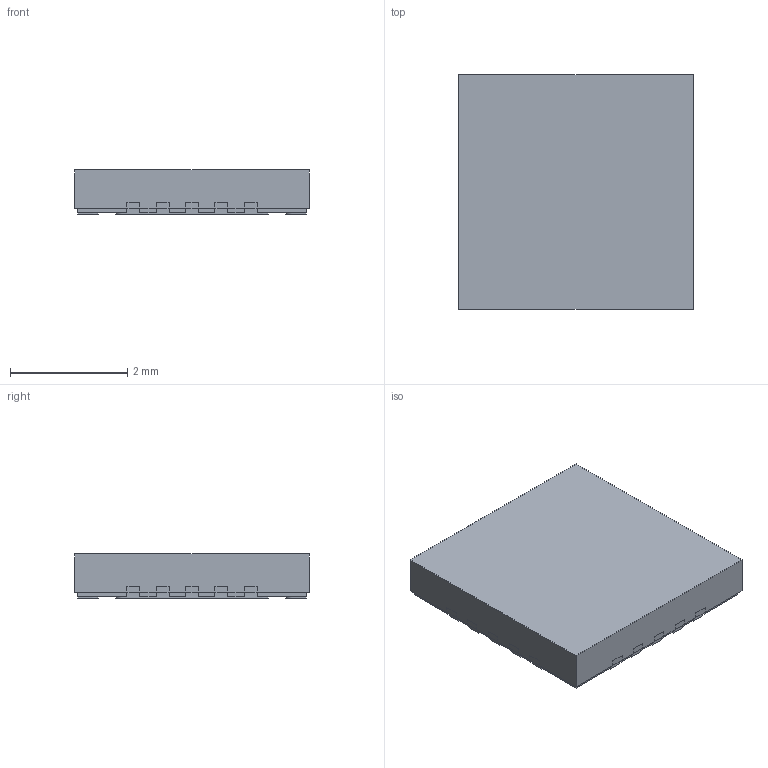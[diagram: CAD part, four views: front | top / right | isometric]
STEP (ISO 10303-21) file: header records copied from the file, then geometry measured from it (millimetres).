
FILE_DESCRIPTION (( 'STEP AP214' ), '1' );
FILE_NAME ('ES20-Wettable.STEP', '2018-09-27T18:52:39', ( '' ), ( '' ), 'SwSTEP 2.0', 'SolidWorks 2017', '' );
FILE_SCHEMA (( 'AUTOMOTIVE_DESIGN' ));
Length unit declared in the file: millimetre
Products named in the file (1): ES20-Wettable
Bounding box: 4 x 4 x 0.75 mm (x, y, z)
Volume: 11.7 mm3; surface area: 44.3 mm2
Topology: 1 solids, 1 shells, 206 faces, 529 edges, 326 vertices
Faces by surface type: plane 175, cylinder 31
Entity records: 6659 total; most frequent: CARTESIAN_POINT 1062, ORIENTED_EDGE 1058, DIRECTION 1005, EDGE_CURVE 529, LINE 467, VECTOR 467, VERTEX_POINT 326, AXIS2_PLACEMENT_3D 269
